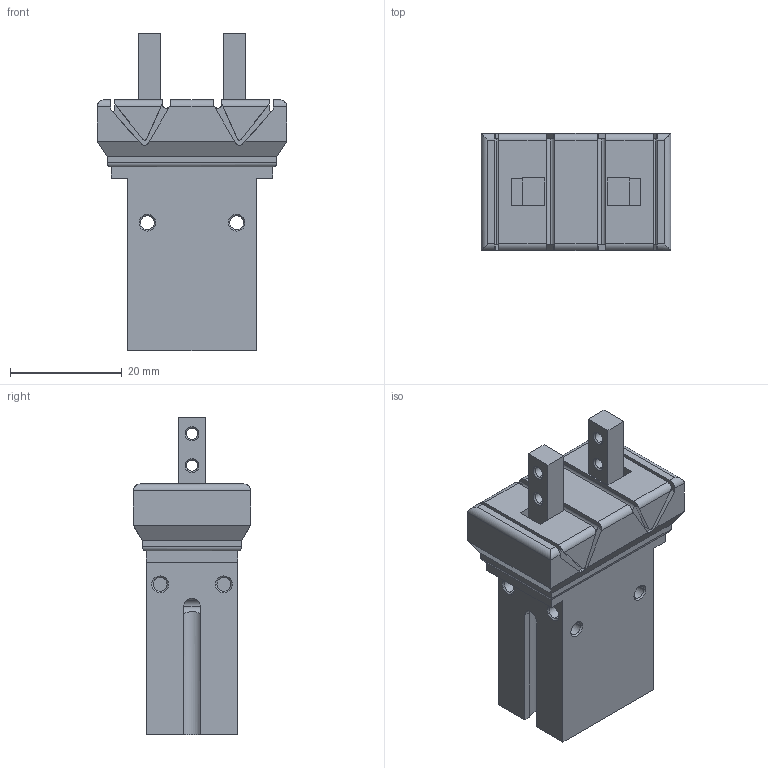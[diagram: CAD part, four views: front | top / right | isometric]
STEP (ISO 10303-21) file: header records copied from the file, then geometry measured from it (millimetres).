
FILE_DESCRIPTION (( 'STEP AP203' ), '1' );
FILE_NAME ('CHZJ2-10D.STEP', '2021-06-14T18:55:58', ( '' ), ( '' ), 'SwSTEP 2.0', 'SolidWorks 2019', '' );
FILE_SCHEMA (( 'CONFIG_CONTROL_DESIGN' ));
Length unit declared in the file: millimetre
Products named in the file (1): CHZJ2-10D
Bounding box: 34 x 21 x 57 mm (x, y, z)
Volume: 19573.1 mm3; surface area: 7225.3 mm2
Topology: 3 solids, 3 shells, 224 faces, 553 edges, 343 vertices
Faces by surface type: plane 100, cylinder 78, cone 44, sphere 2
Entity records: 6991 total; most frequent: CARTESIAN_POINT 1568, DIRECTION 1146, ORIENTED_EDGE 1096, EDGE_CURVE 548, AXIS2_PLACEMENT_3D 408, VERTEX_POINT 340, VECTOR 330, LINE 330
